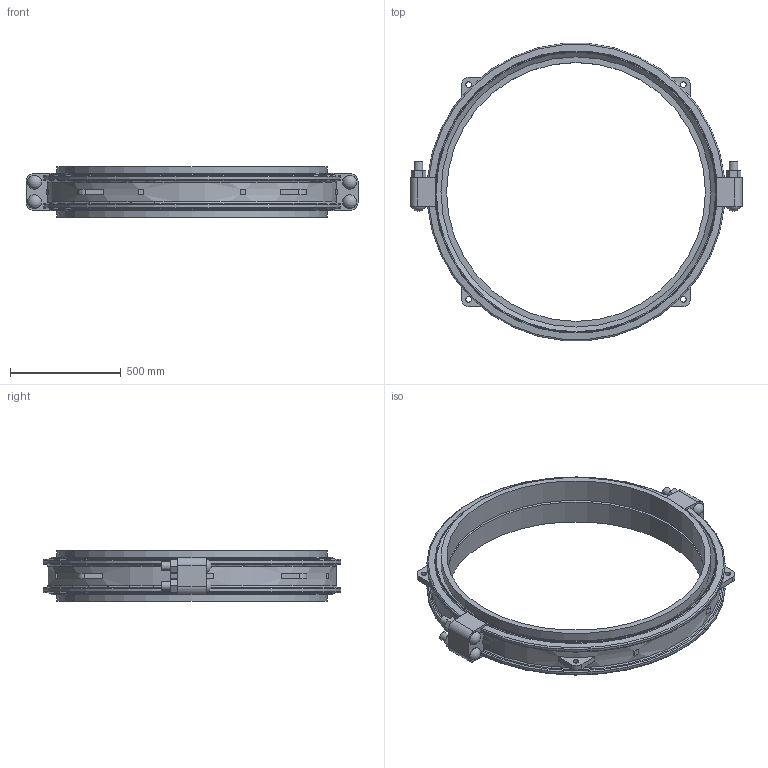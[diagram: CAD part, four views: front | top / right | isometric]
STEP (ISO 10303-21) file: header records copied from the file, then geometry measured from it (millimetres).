
FILE_DESCRIPTION(/* description */ ('VIC COUPLING FLEX STYLE W77 AGS VIC-RING ','CAx-IF Rec.Pracs.---Representation and Presentation of Product Manufacturing Information (PMI)---4.0---2014-10-13'),/* implementation_level */ '2;1');
FILE_NAME(/* name */ 'C:\Users\Vjadhav\AppData\Roaming\Autodesk\ApplicationPlugins\Victaulic.Temp\A52\Victaulic_Vic-Ring_Coupling Flexible_Style W77 (AGR)_48 (1200).stp',/* time_stamp */ '2021-12-20T11:06:22+06:00',/* author */ ('Vjadhav'),/* organization */ ('Victaulic'),/* preprocessor_version */ 'ST-DEVELOPER v17.2',/* originating_system */ 'Autodesk Inventor 2019',/* authorisation */ '');
FILE_SCHEMA (('AP242_MANAGED_MODEL_BASED_3D_ENGINEERING_MIM_LF { 1 0 10303 442 1 1 4 }'));
Length unit declared in the file: inch
Products named in the file (3): W77 VR-48.0; W77 VR-48.0_1; W77 VR-48.0_2
Assembly tree (3 placements, depth 2):
  W77 VR-48.0
    W77 VR-48.0_1
    W77 VR-48.0_2  x2
Bounding box: 1498.6 x 1341.13 x 226.06 mm (x, y, z)
Volume: 57142487.2 mm3; surface area: 4255473.9 mm2
Topology: 3 solids, 7 shells, 187 faces, 491 edges, 340 vertices
Faces by surface type: plane 110, cylinder 47, torus 16, cone 10, sphere 4
Full cylindrical faces by diameter (mm): 25.4 x4, 38.1 x8, 63.5 x4, 1168.4 x2, 1200.15 x1, 1219.2 x4, 1270 x2
Entity records: 6491 total; most frequent: CARTESIAN_POINT 1514, DIRECTION 987, ORIENTED_EDGE 962, EDGE_CURVE 481, AXIS2_PLACEMENT_3D 365, VERTEX_POINT 332, LINE 257, VECTOR 257
